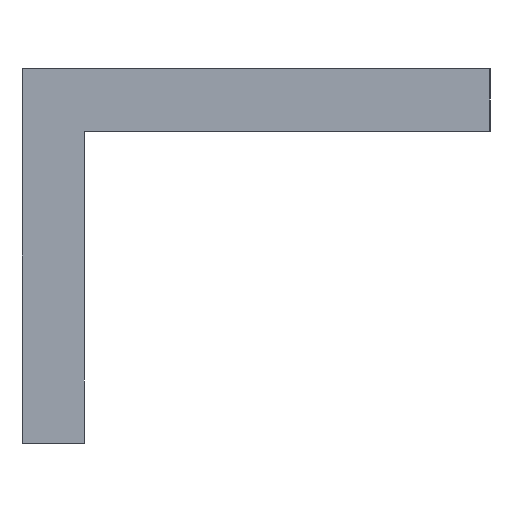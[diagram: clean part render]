
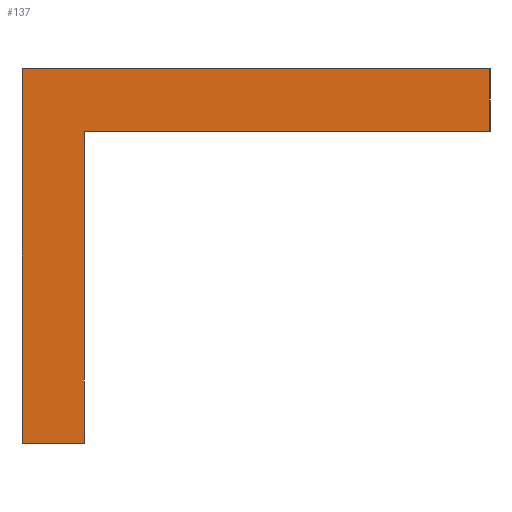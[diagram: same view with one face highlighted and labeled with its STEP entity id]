
A CAD part, left-side view. The second image highlights one B-rep face of the part: STEP entity #137.
In plain terms, the highlighted planar face has unit normal (-1, 0, 0).
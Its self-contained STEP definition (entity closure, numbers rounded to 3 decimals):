
#21 = EDGE_CURVE('',#22,#24,#26,.T.);
#22 = VERTEX_POINT('',#23);
#23 = CARTESIAN_POINT('',(0.,15.,0.));
#24 = VERTEX_POINT('',#25);
#25 = CARTESIAN_POINT('',(0.,15.,12.));
#26 = SURFACE_CURVE('',#27,(#31,#43),.PCURVE_S1.);
#27 = LINE('',#28,#29);
#28 = CARTESIAN_POINT('',(0.,15.,0.));
#29 = VECTOR('',#30,1.);
#30 = DIRECTION('',(0.,0.,1.));
#31 = PCURVE('',#32,#37);
#32 = PLANE('',#33);
#33 = AXIS2_PLACEMENT_3D('',#34,#35,#36);
#34 = CARTESIAN_POINT('',(0.,15.,0.));
#35 = DIRECTION('',(0.,1.,0.));
#36 = DIRECTION('',(1.,0.,0.));
#37 = DEFINITIONAL_REPRESENTATION('',(#38),#42);
#38 = LINE('',#39,#40);
#39 = CARTESIAN_POINT('',(0.,0.));
#40 = VECTOR('',#41,1.);
#41 = DIRECTION('',(0.,-1.));
#42 = ( GEOMETRIC_REPRESENTATION_CONTEXT(2) 
PARAMETRIC_REPRESENTATION_CONTEXT() REPRESENTATION_CONTEXT('2D SPACE',''
  ) );
#43 = PCURVE('',#44,#49);
#44 = PLANE('',#45);
#45 = AXIS2_PLACEMENT_3D('',#46,#47,#48);
#46 = CARTESIAN_POINT('',(0.,0.,0.));
#47 = DIRECTION('',(-1.,0.,0.));
#48 = DIRECTION('',(0.,1.,0.));
#49 = DEFINITIONAL_REPRESENTATION('',(#50),#54);
#50 = LINE('',#51,#52);
#51 = CARTESIAN_POINT('',(15.,0.));
#52 = VECTOR('',#53,1.);
#53 = DIRECTION('',(0.,-1.));
#54 = ( GEOMETRIC_REPRESENTATION_CONTEXT(2) 
PARAMETRIC_REPRESENTATION_CONTEXT() REPRESENTATION_CONTEXT('2D SPACE',''
  ) );
#72 = PLANE('',#73);
#73 = AXIS2_PLACEMENT_3D('',#74,#75,#76);
#74 = CARTESIAN_POINT('',(137.5,7.5,12.));
#75 = DIRECTION('',(-0.,-0.,-1.));
#76 = DIRECTION('',(-1.,0.,0.));
#126 = PLANE('',#127);
#127 = AXIS2_PLACEMENT_3D('',#128,#129,#130);
#128 = CARTESIAN_POINT('',(137.5,7.5,0.));
#129 = DIRECTION('',(-0.,-0.,-1.));
#130 = DIRECTION('',(-1.,0.,0.));
#137 = ADVANCED_FACE('',(#138),#44,.T.);
#138 = FACE_BOUND('',#139,.T.);
#139 = EDGE_LOOP('',(#140,#170,#198,#219,#220,#243));
#140 = ORIENTED_EDGE('',*,*,#141,.T.);
#141 = EDGE_CURVE('',#142,#144,#146,.T.);
#142 = VERTEX_POINT('',#143);
#143 = CARTESIAN_POINT('',(0.,13.,10.));
#144 = VERTEX_POINT('',#145);
#145 = CARTESIAN_POINT('',(0.,0.,10.));
#146 = SURFACE_CURVE('',#147,(#151,#158),.PCURVE_S1.);
#147 = LINE('',#148,#149);
#148 = CARTESIAN_POINT('',(0.,13.,10.));
#149 = VECTOR('',#150,1.);
#150 = DIRECTION('',(0.,-1.,0.));
#151 = PCURVE('',#44,#152);
#152 = DEFINITIONAL_REPRESENTATION('',(#153),#157);
#153 = LINE('',#154,#155);
#154 = CARTESIAN_POINT('',(13.,-10.));
#155 = VECTOR('',#156,1.);
#156 = DIRECTION('',(-1.,0.));
#157 = ( GEOMETRIC_REPRESENTATION_CONTEXT(2) 
PARAMETRIC_REPRESENTATION_CONTEXT() REPRESENTATION_CONTEXT('2D SPACE',''
  ) );
#158 = PCURVE('',#159,#164);
#159 = PLANE('',#160);
#160 = AXIS2_PLACEMENT_3D('',#161,#162,#163);
#161 = CARTESIAN_POINT('',(137.5,6.5,10.));
#162 = DIRECTION('',(0.,0.,1.));
#163 = DIRECTION('',(1.,0.,0.));
#164 = DEFINITIONAL_REPRESENTATION('',(#165),#169);
#165 = LINE('',#166,#167);
#166 = CARTESIAN_POINT('',(-137.5,6.5));
#167 = VECTOR('',#168,1.);
#168 = DIRECTION('',(0.,-1.));
#169 = ( GEOMETRIC_REPRESENTATION_CONTEXT(2) 
PARAMETRIC_REPRESENTATION_CONTEXT() REPRESENTATION_CONTEXT('2D SPACE',''
  ) );
#170 = ORIENTED_EDGE('',*,*,#171,.T.);
#171 = EDGE_CURVE('',#144,#172,#174,.T.);
#172 = VERTEX_POINT('',#173);
#173 = CARTESIAN_POINT('',(0.,0.,12.));
#174 = SURFACE_CURVE('',#175,(#179,#186),.PCURVE_S1.);
#175 = LINE('',#176,#177);
#176 = CARTESIAN_POINT('',(0.,0.,0.));
#177 = VECTOR('',#178,1.);
#178 = DIRECTION('',(0.,0.,1.));
#179 = PCURVE('',#44,#180);
#180 = DEFINITIONAL_REPRESENTATION('',(#181),#185);
#181 = LINE('',#182,#183);
#182 = CARTESIAN_POINT('',(0.,0.));
#183 = VECTOR('',#184,1.);
#184 = DIRECTION('',(0.,-1.));
#185 = ( GEOMETRIC_REPRESENTATION_CONTEXT(2) 
PARAMETRIC_REPRESENTATION_CONTEXT() REPRESENTATION_CONTEXT('2D SPACE',''
  ) );
#186 = PCURVE('',#187,#192);
#187 = PLANE('',#188);
#188 = AXIS2_PLACEMENT_3D('',#189,#190,#191);
#189 = CARTESIAN_POINT('',(275.,0.,0.));
#190 = DIRECTION('',(0.,-1.,0.));
#191 = DIRECTION('',(-1.,0.,0.));
#192 = DEFINITIONAL_REPRESENTATION('',(#193),#197);
#193 = LINE('',#194,#195);
#194 = CARTESIAN_POINT('',(275.,0.));
#195 = VECTOR('',#196,1.);
#196 = DIRECTION('',(0.,-1.));
#197 = ( GEOMETRIC_REPRESENTATION_CONTEXT(2) 
PARAMETRIC_REPRESENTATION_CONTEXT() REPRESENTATION_CONTEXT('2D SPACE',''
  ) );
#198 = ORIENTED_EDGE('',*,*,#199,.T.);
#199 = EDGE_CURVE('',#172,#24,#200,.T.);
#200 = SURFACE_CURVE('',#201,(#205,#212),.PCURVE_S1.);
#201 = LINE('',#202,#203);
#202 = CARTESIAN_POINT('',(0.,0.,12.));
#203 = VECTOR('',#204,1.);
#204 = DIRECTION('',(0.,1.,0.));
#205 = PCURVE('',#44,#206);
#206 = DEFINITIONAL_REPRESENTATION('',(#207),#211);
#207 = LINE('',#208,#209);
#208 = CARTESIAN_POINT('',(0.,-12.));
#209 = VECTOR('',#210,1.);
#210 = DIRECTION('',(1.,0.));
#211 = ( GEOMETRIC_REPRESENTATION_CONTEXT(2) 
PARAMETRIC_REPRESENTATION_CONTEXT() REPRESENTATION_CONTEXT('2D SPACE',''
  ) );
#212 = PCURVE('',#72,#213);
#213 = DEFINITIONAL_REPRESENTATION('',(#214),#218);
#214 = LINE('',#215,#216);
#215 = CARTESIAN_POINT('',(137.5,-7.5));
#216 = VECTOR('',#217,1.);
#217 = DIRECTION('',(0.,1.));
#218 = ( GEOMETRIC_REPRESENTATION_CONTEXT(2) 
PARAMETRIC_REPRESENTATION_CONTEXT() REPRESENTATION_CONTEXT('2D SPACE',''
  ) );
#219 = ORIENTED_EDGE('',*,*,#21,.F.);
#220 = ORIENTED_EDGE('',*,*,#221,.F.);
#221 = EDGE_CURVE('',#222,#22,#224,.T.);
#222 = VERTEX_POINT('',#223);
#223 = CARTESIAN_POINT('',(0.,13.,0.));
#224 = SURFACE_CURVE('',#225,(#229,#236),.PCURVE_S1.);
#225 = LINE('',#226,#227);
#226 = CARTESIAN_POINT('',(0.,0.,0.));
#227 = VECTOR('',#228,1.);
#228 = DIRECTION('',(0.,1.,0.));
#229 = PCURVE('',#44,#230);
#230 = DEFINITIONAL_REPRESENTATION('',(#231),#235);
#231 = LINE('',#232,#233);
#232 = CARTESIAN_POINT('',(0.,0.));
#233 = VECTOR('',#234,1.);
#234 = DIRECTION('',(1.,0.));
#235 = ( GEOMETRIC_REPRESENTATION_CONTEXT(2) 
PARAMETRIC_REPRESENTATION_CONTEXT() REPRESENTATION_CONTEXT('2D SPACE',''
  ) );
#236 = PCURVE('',#126,#237);
#237 = DEFINITIONAL_REPRESENTATION('',(#238),#242);
#238 = LINE('',#239,#240);
#239 = CARTESIAN_POINT('',(137.5,-7.5));
#240 = VECTOR('',#241,1.);
#241 = DIRECTION('',(0.,1.));
#242 = ( GEOMETRIC_REPRESENTATION_CONTEXT(2) 
PARAMETRIC_REPRESENTATION_CONTEXT() REPRESENTATION_CONTEXT('2D SPACE',''
  ) );
#243 = ORIENTED_EDGE('',*,*,#244,.T.);
#244 = EDGE_CURVE('',#222,#142,#245,.T.);
#245 = SURFACE_CURVE('',#246,(#250,#257),.PCURVE_S1.);
#246 = LINE('',#247,#248);
#247 = CARTESIAN_POINT('',(0.,13.,0.));
#248 = VECTOR('',#249,1.);
#249 = DIRECTION('',(0.,0.,1.));
#250 = PCURVE('',#44,#251);
#251 = DEFINITIONAL_REPRESENTATION('',(#252),#256);
#252 = LINE('',#253,#254);
#253 = CARTESIAN_POINT('',(13.,0.));
#254 = VECTOR('',#255,1.);
#255 = DIRECTION('',(0.,-1.));
#256 = ( GEOMETRIC_REPRESENTATION_CONTEXT(2) 
PARAMETRIC_REPRESENTATION_CONTEXT() REPRESENTATION_CONTEXT('2D SPACE',''
  ) );
#257 = PCURVE('',#258,#263);
#258 = PLANE('',#259);
#259 = AXIS2_PLACEMENT_3D('',#260,#261,#262);
#260 = CARTESIAN_POINT('',(275.,13.,0.));
#261 = DIRECTION('',(0.,-1.,0.));
#262 = DIRECTION('',(-1.,0.,0.));
#263 = DEFINITIONAL_REPRESENTATION('',(#264),#268);
#264 = LINE('',#265,#266);
#265 = CARTESIAN_POINT('',(275.,0.));
#266 = VECTOR('',#267,1.);
#267 = DIRECTION('',(0.,-1.));
#268 = ( GEOMETRIC_REPRESENTATION_CONTEXT(2) 
PARAMETRIC_REPRESENTATION_CONTEXT() REPRESENTATION_CONTEXT('2D SPACE',''
  ) );
